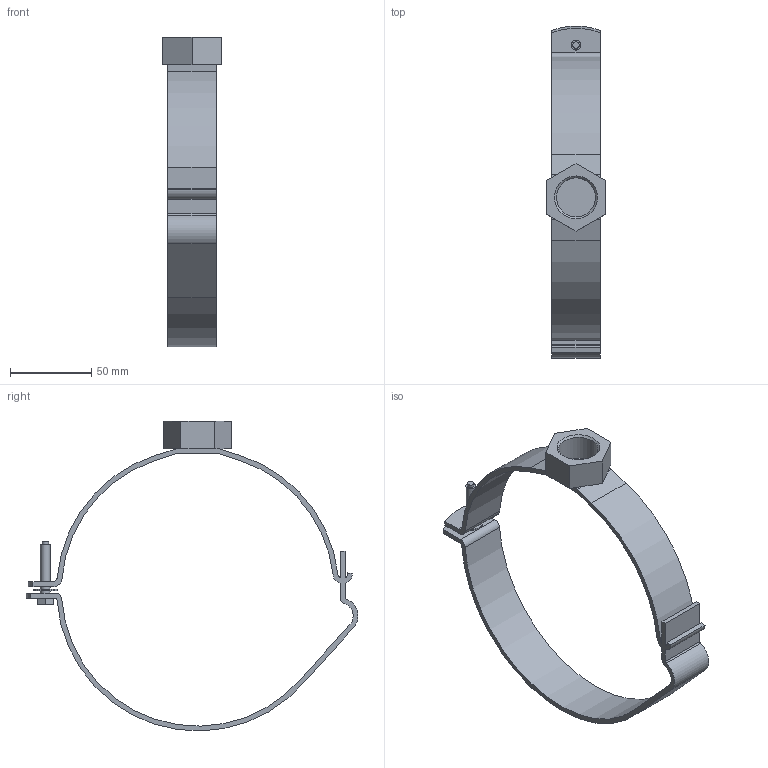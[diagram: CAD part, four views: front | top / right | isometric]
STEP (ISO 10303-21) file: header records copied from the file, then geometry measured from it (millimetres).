
FILE_DESCRIPTION( ( 'STEP AP214' ), '1' );
FILE_NAME( 'C:/Users/ilukic/Documents/ex/gebaudeentwasserung/pe/pipe bracket G3_4 adjustable/369842.stp', '2020-03-26T18:42:08', ( '' ), ( '' ), ' ', 'PARTsolutions', ' ' );
FILE_SCHEMA( ( 'AUTOMOTIVE_DESIGN { 1 0 10303 214 1 1 1 1 }' ) );
Length unit declared in the file: millimetre
Products named in the file (1): _369842
Bounding box: 36 x 204.75 x 191.19 mm (x, y, z)
Volume: 66704.5 mm3; surface area: 44977.8 mm2
Topology: 1 solids, 1 shells, 72 faces, 189 edges, 126 vertices
Faces by surface type: plane 39, cylinder 32, cone 1
Full cylindrical faces by diameter (mm): 4 x1, 6 x3, 15 x1, 24.117 x1
Entity records: 2790 total; most frequent: DIRECTION 392, CARTESIAN_POINT 379, ORIENTED_EDGE 362, EDGE_CURVE 181, AXIS2_PLACEMENT_3D 138, VERTEX_POINT 125, LINE 116, VECTOR 116
